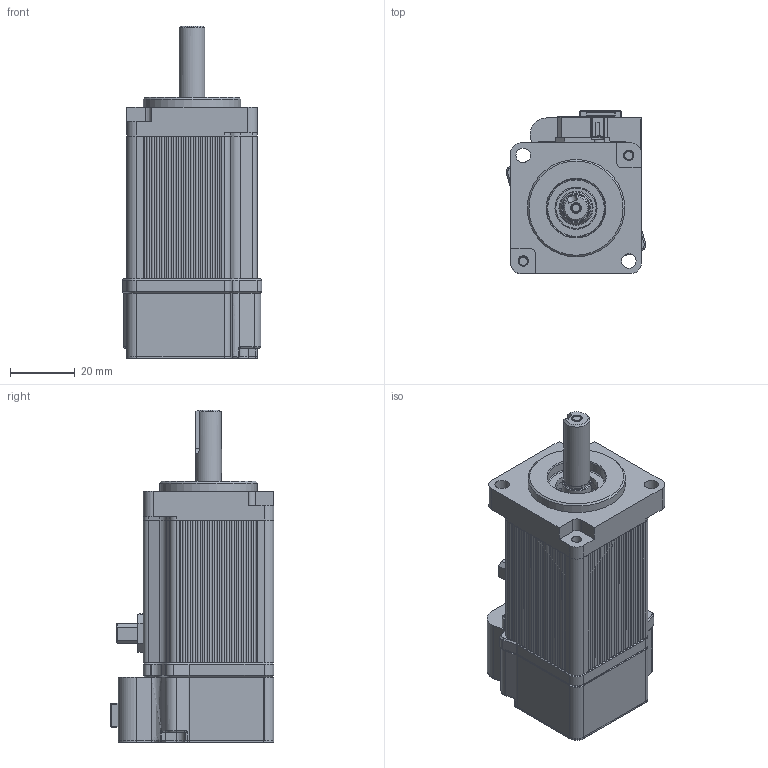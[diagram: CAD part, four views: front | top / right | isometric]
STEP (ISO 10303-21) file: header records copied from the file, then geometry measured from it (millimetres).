
FILE_DESCRIPTION (( 'STEP AP203' ), '1' );
FILE_NAME ('40-100W_NB(¿Ü°ü¿ë).STEP', '2022-09-07T03:12:57', ( '' ), ( '' ), 'SwSTEP 2.0', 'SolidWorks 2020', '' );
FILE_SCHEMA (( 'CONFIG_CONTROL_DESIGN' ));
Length unit declared in the file: millimetre
Products named in the file (9): 40陝 Ы楠雖; 40陝 Щ溯歜滲唳ヶ; K3D-JN14FH04PJ1-V1_JAE_Proprietary.step; 40-100W_NB(諼婦辨); K3D-JN14AH04NJ1-V1_JAE(receptacle; 40陝 粽塭鰍; 40阿 箕橇飘(寇何诀眉侩); 40陝 縛囀渦 醴幗; 50160487(ENCODER COVER_¡à40)
Assembly tree (8 placements, depth 2):
  40-100W_NB(諼婦辨)
    40陝 Ы楠雖
    40阿 箕橇飘(寇何诀眉侩)
    40陝 Щ溯歜滲唳ヶ
    40陝 粽塭鰍
    40陝 縛囀渦 醴幗
    K3D-JN14AH04NJ1-V1_JAE(receptacle
    K3D-JN14FH04PJ1-V1_JAE_Proprietary.step
    50160487(ENCODER COVER_¡à40)
Bounding box: 43.03 x 50.4 x 102.3 mm (x, y, z)
Volume: 60711.3 mm3; surface area: 48367.6 mm2
Topology: 8 solids, 8 shells, 1183 faces, 3006 edges, 1889 vertices
Faces by surface type: plane 691, cylinder 345, cone 57, bspline 56, torus 25, sphere 9
Full cylindrical faces by diameter (mm): 1 x4, 1.6 x5, 2 x4, 2.4 x1, 2.6 x6, 3 x7, 3.2 x2, 4.5 x2, 7.7 x1, 8 x1, 9 x1, 9.9 x1, 10 x1, 13 x2, 14.5 x1, 18 x1, 19 x1, 21.974 x1, 22 x1, 24 x1, 30 x1, 35.7 x1, 36.3 x1, 37.2 x2, 37.6 x2
Entity records: 36794 total; most frequent: CARTESIAN_POINT 7661, DIRECTION 5796, ORIENTED_EDGE 5780, EDGE_CURVE 2890, VECTOR 1996, LINE 1996, AXIS2_PLACEMENT_3D 1900, VERTEX_POINT 1869
